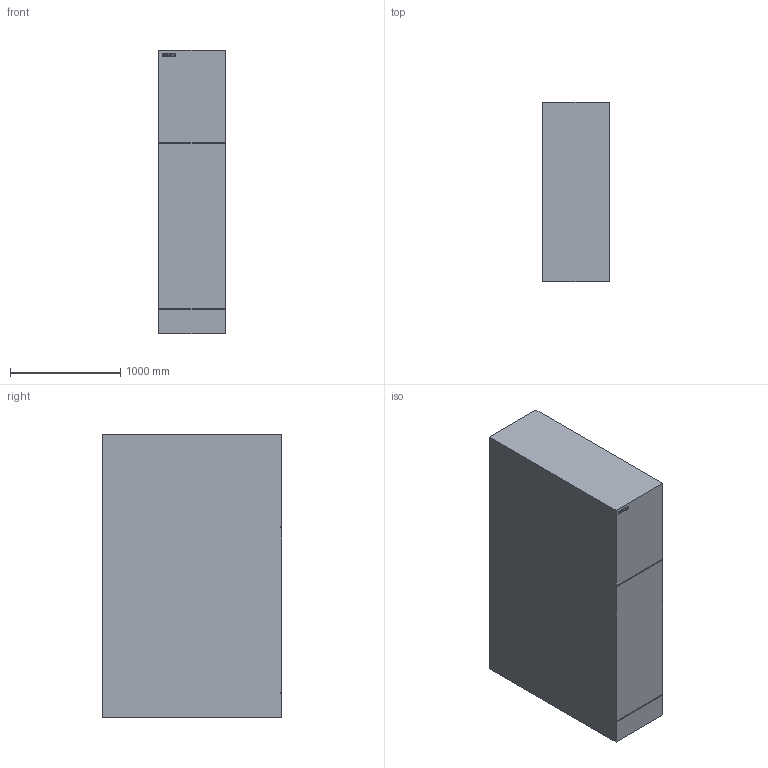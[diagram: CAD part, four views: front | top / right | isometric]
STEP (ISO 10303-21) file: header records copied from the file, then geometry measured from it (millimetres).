
FILE_DESCRIPTION(/* description */ (''),/* implementation_level */ '2;1');
FILE_NAME(/* name */ 'C:\ProgramData\Autodesk\RVT 2016\Libraries\Germany\__Siemens Entwicklung 8DA 8DB\DWG\Siemens_MV_switchgear_gas-insulated_8DA10_40_5kV - Single panel 600mm without cable cutout LV850 with raised.stp',/* time_stamp */ '2018-03-14T11:55:23+01:00',/* author */ ('prange'),/* organization */ (''),/* preprocessor_version */ 'ST-DEVELOPER v16.1',/* originating_system */ 'AutoCAD Mechanical',/* authorisation */ '');
FILE_SCHEMA (('AUTOMOTIVE_DESIGN { 1 0 10303 214 3 1 1 }'));
Length unit declared in the file: millimetre
Products named in the file (2): 8DA - Basic - Test-568506-_3D_; Product
Assembly tree (1 placements, depth 2):
  Product
    8DA - Basic - Test-568506-_3D_
Bounding box: 600 x 1626.5 x 2570 mm (x, y, z)
Volume: 2505633750 mm3; surface area: 13418812.8 mm2
Topology: 2 solids, 9 shells, 27 faces, 191 edges, 195 vertices
Faces by surface type: plane 27
Entity records: 1848 total; most frequent: CARTESIAN_POINT 416, DIRECTION 251, ORIENTED_EDGE 219, LINE 191, VECTOR 191, EDGE_CURVE 171, VERTEX_POINT 155, AXIS2_PLACEMENT_3D 30
